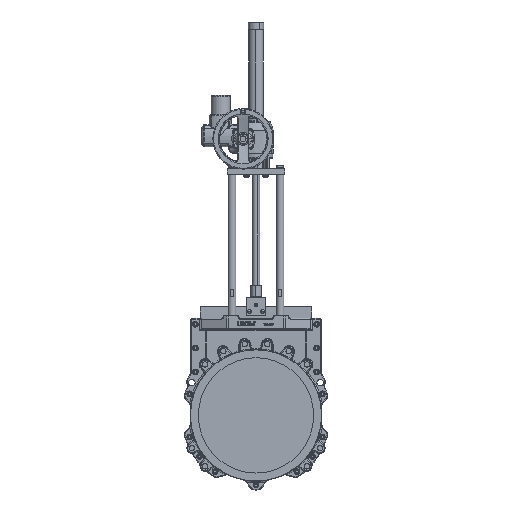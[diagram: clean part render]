
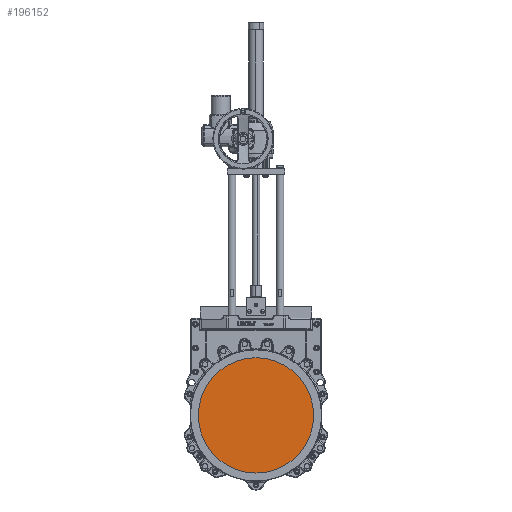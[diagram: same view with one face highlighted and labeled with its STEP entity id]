
A CAD part, top view. The second image highlights one B-rep face of the part: STEP entity #196152.
In plain terms, the highlighted planar face has unit normal (0, 0, 1).
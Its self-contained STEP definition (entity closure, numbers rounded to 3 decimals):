
#3006 = AXIS2_PLACEMENT_3D ( 'NONE', #176446, #85268, #191776 ) ;
#33119 = DIRECTION ( 'NONE',  ( 0., 0., -1. ) ) ;
#57292 = DIRECTION ( 'NONE',  ( 0., 0., -1. ) ) ;
#57873 = EDGE_CURVE ( 'NONE', #142867, #177669, #145909, .T. ) ;
#58844 = AXIS2_PLACEMENT_3D ( 'NONE', #148417, #57292, #163803 ) ;
#61363 = ORIENTED_EDGE ( 'NONE', *, *, #57873, .F. ) ;
#68072 = CIRCLE ( 'NONE', #58844, 300. ) ;
#77763 = FACE_OUTER_BOUND ( 'NONE', #100090, .T. ) ;
#85268 = DIRECTION ( 'NONE',  ( 0., 0., -1. ) ) ;
#97079 = CARTESIAN_POINT ( 'NONE',  ( 300., 0., 0. ) ) ;
#97186 = CARTESIAN_POINT ( 'NONE',  ( -300., 0., 0. ) ) ;
#100090 = EDGE_LOOP ( 'NONE', ( #61363, #194089 ) ) ;
#114924 = EDGE_CURVE ( 'NONE', #177669, #142867, #68072, .T. ) ;
#124272 = CARTESIAN_POINT ( 'NONE',  ( 0.839, -823.489, 0. ) ) ;
#130791 = AXIS2_PLACEMENT_3D ( 'NONE', #124272, #33119, #139562 ) ;
#139562 = DIRECTION ( 'NONE',  ( -1., 0., 0. ) ) ;
#142867 = VERTEX_POINT ( 'NONE', #97079 ) ;
#145909 = CIRCLE ( 'NONE', #3006, 300. ) ;
#148417 = CARTESIAN_POINT ( 'NONE',  ( 0., 0., 0. ) ) ;
#154282 = PLANE ( 'NONE',  #130791 ) ;
#163803 = DIRECTION ( 'NONE',  ( -1., 0., 0. ) ) ;
#176446 = CARTESIAN_POINT ( 'NONE',  ( 0., 0., 0. ) ) ;
#177669 = VERTEX_POINT ( 'NONE', #97186 ) ;
#191776 = DIRECTION ( 'NONE',  ( -1., 0., 0. ) ) ;
#194089 = ORIENTED_EDGE ( 'NONE', *, *, #114924, .F. ) ;
#196152 = ADVANCED_FACE ( 'NONE', ( #77763 ), #154282, .F. ) ;
